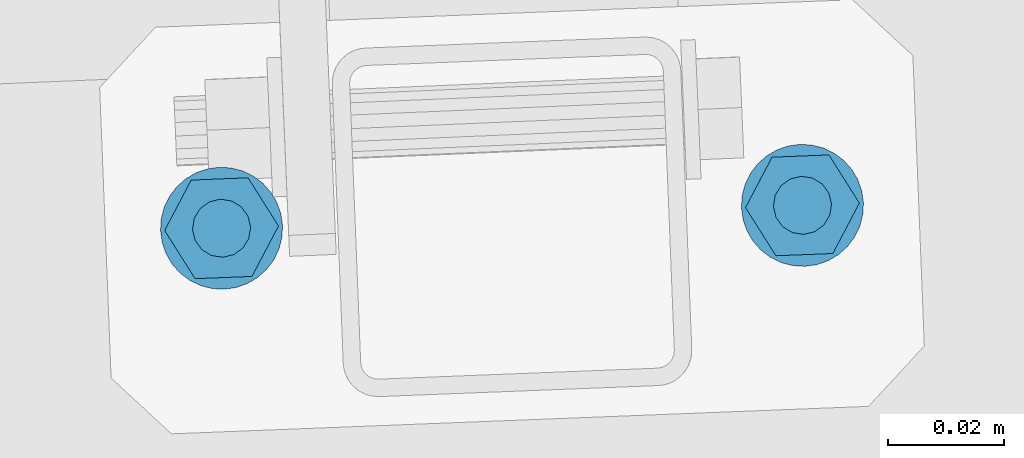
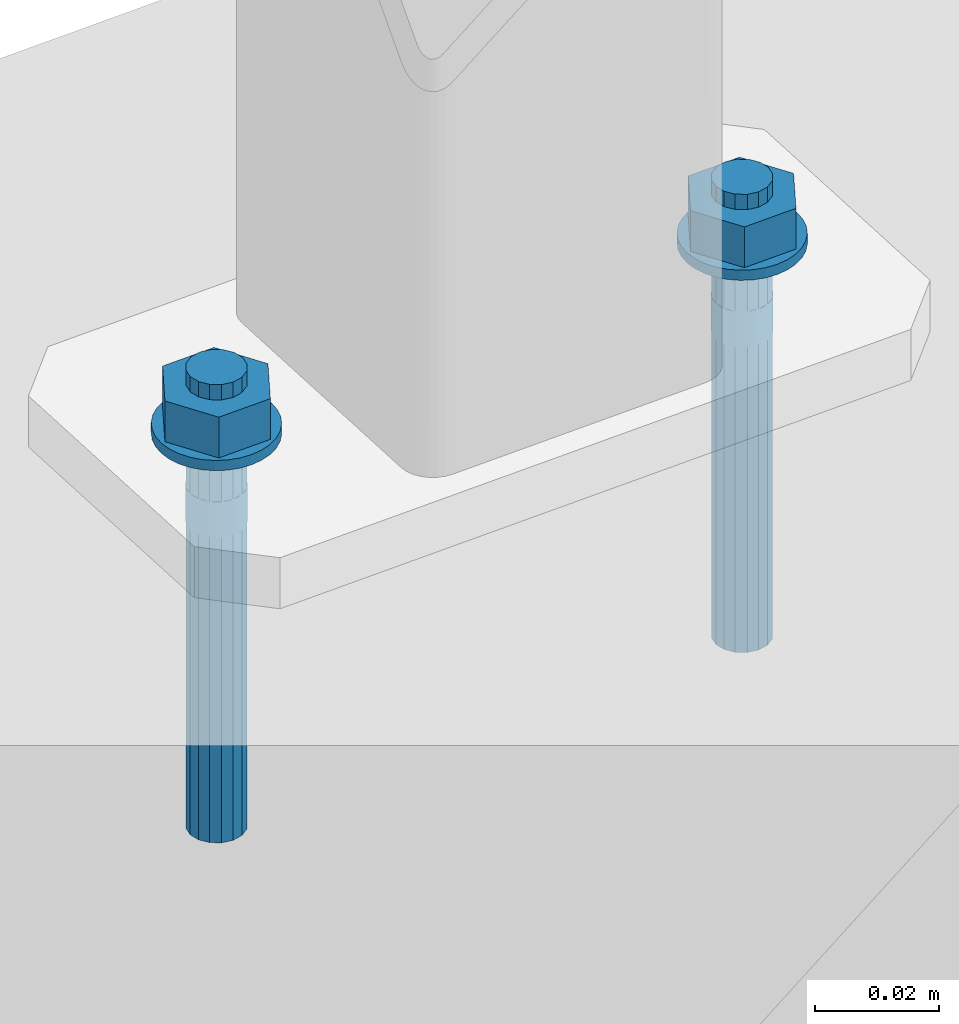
# One storey, part 267 of 288: 2 mechanical fasteners.
"""IFC2X3 building model written with IfcOpenShell, lengths in millimetres."""

from ifc_helpers import new_model, entity, si_unit, converted_unit, origin_with_axes, place, context, project, spatial, faceted_brep, element, save


model = new_model("IFC2X3")

# Units and contexts
model_context = context("Model", 3, precision=1e-09, world=origin_with_axes())
ifc_project = project(units=[si_unit("LENGTHUNIT", "METRE", prefix="MILLI"), si_unit("AREAUNIT", "SQUARE_METRE"), si_unit("VOLUMEUNIT", "CUBIC_METRE"), converted_unit("PLANEANGLEUNIT", "DEGREE", entity("IfcPlaneAngleMeasure", 0.01745329), si_unit("PLANEANGLEUNIT", "RADIAN"), dimensions=[0, 0, 0, 0, 0, 0, 0])], contexts=[model_context])

# Site, building, storey
site_placement = place(None, origin_with_axes())
site = spatial("IfcSite", under=ifc_project, at=site_placement, Name="Remont ?wietlik?w nad MC w NCPP w Opolu", CompositionType="ELEMENT")
building_placement = place(site_placement, origin_with_axes())
building = spatial("IfcBuilding", under=site, at=building_placement, Name="Konstrukcja 1", CompositionType="ELEMENT")
storey_placement = place(building_placement, origin_with_axes())
storey = spatial("IfcBuildingStorey", under=building, at=storey_placement, Name="Default Storey", CompositionType="ELEMENT", Elevation=0.0)

# Mechanical fasteners
mechanical_fastener_1_placement = place(None, origin_with_axes())
element("IfcMechanicalFastener", 1, at=mechanical_fastener_1_placement, inside=storey, ObjectType="Anchor_Bolt", NominalDiameter=10.0, NominalLength=90.0, context=model_context, shape_type="Brep", body=[
    faceted_brep([(8825.52877766, 13902.62062652, 12.000000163), (8825.52877766, 13902.62062652, 10.000000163), (8823.489866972, 13902.338334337, 10.000000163), (8823.489866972, 13902.338334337, 12.000000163), (8821.545205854, 13901.663694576, 10.000000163), (8821.545205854, 13901.663694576, 12.000000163), (8819.769526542, 13900.622633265, 10.000000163), (8819.769526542, 13900.622633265, 12.000000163), (8818.231067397, 13899.255157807, 10.000000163), (8818.231067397, 13899.255157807, 12.000000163), (8816.98895054, 13897.613819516, 10.000000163), (8816.98895054, 13897.613819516, 12.000000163), (8816.090909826, 13895.761694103, 10.000000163), (8816.090909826, 13895.761694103, 12.000000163), (8815.571456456, 13893.769957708, 10.000000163), (8815.571456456, 13893.769957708, 12.000000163), (8815.450552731, 13891.715151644, 10.000000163), (8815.450552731, 13891.715151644, 12.000000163), (8815.732844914, 13889.676240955, 10.000000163), (8815.732844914, 13889.676240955, 12.000000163), (8816.407484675, 13887.731579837, 10.000000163), (8816.407484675, 13887.731579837, 12.000000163), (8817.448545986, 13885.955900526, 10.000000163), (8817.448545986, 13885.955900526, 12.000000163), (8818.816021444, 13884.41744138, 10.000000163), (8818.816021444, 13884.41744138, 12.000000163), (8820.457359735, 13883.175324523, 10.000000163), (8820.457359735, 13883.175324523, 12.000000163), (8822.309485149, 13882.277283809, 10.000000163), (8822.309485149, 13882.277283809, 12.000000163), (8824.301221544, 13881.757830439, 10.000000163), (8824.301221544, 13881.757830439, 12.000000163), (8826.356027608, 13881.636926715, 10.000000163), (8826.356027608, 13881.636926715, 12.000000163), (8828.394938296, 13881.919218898, 10.000000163), (8828.394938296, 13881.919218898, 12.000000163), (8830.339599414, 13882.593858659, 10.000000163), (8830.339599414, 13882.593858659, 12.000000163), (8832.115278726, 13883.634919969, 10.000000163), (8832.115278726, 13883.634919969, 12.000000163), (8833.653737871, 13885.002395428, 10.000000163), (8833.653737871, 13885.002395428, 12.000000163), (8834.895854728, 13886.643733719, 10.000000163), (8834.895854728, 13886.643733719, 12.000000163), (8835.793895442, 13888.495859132, 10.000000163), (8835.793895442, 13888.495859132, 12.000000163), (8836.313348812, 13890.487595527, 10.000000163), (8836.313348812, 13890.487595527, 12.000000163), (8836.434252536, 13892.542401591, 10.000000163), (8836.434252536, 13892.542401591, 12.000000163), (8836.151960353, 13894.581312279, 10.000000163), (8836.151960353, 13894.581312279, 12.000000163), (8835.477320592, 13896.525973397, 10.000000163), (8835.477320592, 13896.525973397, 12.000000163), (8834.436259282, 13898.301652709, 10.000000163), (8834.436259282, 13898.301652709, 12.000000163), (8833.068783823, 13899.840111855, 10.000000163), (8833.068783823, 13899.840111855, 12.000000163), (8831.427445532, 13901.082228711, 10.000000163), (8831.427445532, 13901.082228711, 12.000000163), (8829.575320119, 13901.980269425, 10.000000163), (8829.575320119, 13901.980269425, 12.000000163), (8827.583583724, 13902.499722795, 10.000000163), (8827.583583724, 13902.499722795, 12.000000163)], [[[0, 1, 2, 3]], [[3, 2, 4, 5]], [[5, 4, 6, 7]], [[7, 6, 8, 9]], [[9, 8, 10, 11]], [[11, 10, 12, 13]], [[13, 12, 14, 15]], [[15, 14, 16, 17]], [[17, 16, 18, 19]], [[19, 18, 20, 21]], [[21, 20, 22, 23]], [[23, 22, 24, 25]], [[25, 24, 26, 27]], [[27, 26, 28, 29]], [[29, 28, 30, 31]], [[31, 30, 32, 33]], [[33, 32, 34, 35]], [[35, 34, 36, 37]], [[37, 36, 38, 39]], [[39, 38, 40, 41]], [[41, 40, 42, 43]], [[43, 42, 44, 45]], [[45, 44, 46, 47]], [[47, 46, 48, 49]], [[49, 48, 50, 51]], [[51, 50, 52, 53]], [[53, 52, 54, 55]], [[55, 54, 56, 57]], [[57, 56, 58, 59]], [[59, 58, 60, 61]], [[61, 60, 62, 63]], [[63, 62, 1, 0]], [[0, 3, 5, 7, 9, 11, 13, 15, 17, 19, 21, 23, 25, 27, 29, 31, 33, 35, 37, 39, 41, 43, 45, 47, 49, 51, 53, 55, 57, 59, 61, 63]], [[1, 62, 60, 58, 56, 54, 52, 50, 48, 46, 44, 42, 40, 38, 36, 34, 32, 30, 28, 26, 24, 22, 20, 18, 16, 14, 12, 10, 8, 6, 4, 2]]]),
    faceted_brep([(8821.380535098, 13883.455290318, 12.000000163), (8821.380535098, 13883.455290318, 20.000000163), (8816.150009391, 13891.742726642, 20.000000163), (8816.150009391, 13891.742726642, 12.000000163), (8820.711876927, 13900.416212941, 20.000000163), (8820.711876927, 13900.416212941, 12.000000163), (8830.504270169, 13900.802262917, 20.000000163), (8830.504270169, 13900.802262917, 12.000000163), (8835.734795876, 13892.514826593, 20.000000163), (8835.734795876, 13892.514826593, 12.000000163), (8831.172928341, 13883.841340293, 20.000000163), (8831.172928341, 13883.841340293, 12.000000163)], [[[0, 1, 2, 3]], [[3, 2, 4, 5]], [[5, 4, 6, 7]], [[7, 6, 8, 9]], [[9, 8, 10, 11]], [[11, 10, 1, 0]], [[4, 2, 1, 10, 8, 6]], [[0, 3, 5, 7, 9, 11]]]),
    faceted_brep([(8825.745438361, 13897.124895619, 23.000000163), (8825.745438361, 13897.124895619, 20.000000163), (8823.848499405, 13896.66921374, 20.000000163), (8823.848499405, 13896.66921374, 23.000000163), (8822.270338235, 13895.52229147, 20.000000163), (8822.270338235, 13895.52229147, 23.000000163), (8821.251215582, 13893.858737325, 20.000000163), (8821.251215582, 13893.858737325, 23.000000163), (8820.946283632, 13891.931812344, 20.000000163), (8820.946283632, 13891.931812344, 23.000000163), (8821.401965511, 13890.034873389, 20.000000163), (8821.401965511, 13890.034873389, 23.000000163), (8822.548887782, 13888.456712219, 20.000000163), (8822.548887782, 13888.456712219, 23.000000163), (8824.212441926, 13887.437589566, 20.000000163), (8824.212441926, 13887.437589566, 23.000000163), (8826.139366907, 13887.132657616, 20.000000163), (8826.139366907, 13887.132657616, 23.000000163), (8828.036305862, 13887.588339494, 20.000000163), (8828.036305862, 13887.588339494, 23.000000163), (8829.614467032, 13888.735261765, 20.000000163), (8829.614467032, 13888.735261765, 23.000000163), (8830.633589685, 13890.39881591, 20.000000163), (8830.633589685, 13890.39881591, 23.000000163), (8830.938521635, 13892.325740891, 20.000000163), (8830.938521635, 13892.325740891, 23.000000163), (8830.482839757, 13894.222679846, 20.000000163), (8830.482839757, 13894.222679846, 23.000000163), (8829.335917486, 13895.800841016, 20.000000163), (8829.335917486, 13895.800841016, 23.000000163), (8827.672363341, 13896.819963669, 20.000000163), (8827.672363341, 13896.819963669, 23.000000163)], [[[0, 1, 2, 3]], [[3, 2, 4, 5]], [[5, 4, 6, 7]], [[7, 6, 8, 9]], [[9, 8, 10, 11]], [[11, 10, 12, 13]], [[13, 12, 14, 15]], [[15, 14, 16, 17]], [[17, 16, 18, 19]], [[19, 18, 20, 21]], [[21, 20, 22, 23]], [[23, 22, 24, 25]], [[25, 24, 26, 27]], [[27, 26, 28, 29]], [[29, 28, 30, 31]], [[31, 30, 1, 0]], [[0, 3, 5, 7, 9, 11, 13, 15, 17, 19, 21, 23, 25, 27, 29, 31]], [[1, 30, 28, 26, 24, 22, 20, 18, 16, 14, 12, 10, 8, 6, 4, 2]]]),
    faceted_brep([(8825.745438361, 13897.124895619, 10.000000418), (8825.745438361, 13897.124895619, 1.63e-07), (8823.848499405, 13896.66921374, 1.63e-07), (8823.848499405, 13896.66921374, 10.000000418), (8822.270338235, 13895.52229147, 1.63e-07), (8822.270338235, 13895.52229147, 10.000000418), (8821.251215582, 13893.858737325, 1.63e-07), (8821.251215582, 13893.858737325, 10.000000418), (8820.946283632, 13891.931812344, 1.63e-07), (8820.946283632, 13891.931812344, 10.000000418), (8821.401965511, 13890.034873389, 1.63e-07), (8821.401965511, 13890.034873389, 10.000000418), (8822.548887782, 13888.456712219, 1.63e-07), (8822.548887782, 13888.456712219, 10.000000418), (8824.212441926, 13887.437589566, 1.63e-07), (8824.212441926, 13887.437589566, 10.000000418), (8826.139366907, 13887.132657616, 1.63e-07), (8826.139366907, 13887.132657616, 10.000000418), (8828.036305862, 13887.588339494, 1.63e-07), (8828.036305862, 13887.588339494, 10.000000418), (8829.614467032, 13888.735261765, 1.63e-07), (8829.614467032, 13888.735261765, 10.000000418), (8830.633589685, 13890.39881591, 1.63e-07), (8830.633589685, 13890.39881591, 10.000000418), (8830.938521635, 13892.325740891, 1.63e-07), (8830.938521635, 13892.325740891, 10.000000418), (8830.482839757, 13894.222679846, 1.63e-07), (8830.482839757, 13894.222679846, 10.000000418), (8829.335917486, 13895.800841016, 1.63e-07), (8829.335917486, 13895.800841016, 10.000000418), (8827.672363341, 13896.819963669, 1.63e-07), (8827.672363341, 13896.819963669, 10.000000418)], [[[0, 1, 2, 3]], [[3, 2, 4, 5]], [[5, 4, 6, 7]], [[7, 6, 8, 9]], [[9, 8, 10, 11]], [[11, 10, 12, 13]], [[13, 12, 14, 15]], [[15, 14, 16, 17]], [[17, 16, 18, 19]], [[19, 18, 20, 21]], [[21, 20, 22, 23]], [[23, 22, 24, 25]], [[25, 24, 26, 27]], [[27, 26, 28, 29]], [[29, 28, 30, 31]], [[31, 30, 1, 0]], [[0, 3, 5, 7, 9, 11, 13, 15, 17, 19, 21, 23, 25, 27, 29, 31]], [[1, 30, 28, 26, 24, 22, 20, 18, 16, 14, 12, 10, 8, 6, 4, 2]]]),
    faceted_brep([(8825.745438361, 13897.124895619, -9.3e-08), (8825.745438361, 13897.124895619, -6.999999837), (8824.774528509, 13896.990470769, -6.999999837), (8824.774528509, 13896.990470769, -9.3e-08), (8823.848499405, 13896.66921374, -6.999999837), (8823.848499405, 13896.66921374, -9.3e-08), (8823.002937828, 13896.173470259, -6.999999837), (8823.002937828, 13896.173470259, -9.3e-08), (8822.270338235, 13895.52229147, -6.999999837), (8822.270338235, 13895.52229147, -9.3e-08), (8821.678854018, 13894.740701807, -6.999999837), (8821.678854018, 13894.740701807, -9.3e-08), (8821.251215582, 13893.858737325, -6.999999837), (8821.251215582, 13893.858737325, -9.3e-08), (8821.003856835, 13892.910291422, -6.999999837), (8821.003856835, 13892.910291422, -9.3e-08), (8820.946283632, 13891.931812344, -6.999999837), (8820.946283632, 13891.931812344, -9.3e-08), (8821.080708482, 13890.960902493, -6.999999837), (8821.080708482, 13890.960902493, -9.3e-08), (8821.401965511, 13890.034873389, -6.999999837), (8821.401965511, 13890.034873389, -9.3e-08), (8821.897708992, 13889.189311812, -6.999999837), (8821.897708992, 13889.189311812, -9.3e-08), (8822.548887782, 13888.456712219, -6.999999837), (8822.548887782, 13888.456712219, -9.3e-08), (8823.330477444, 13887.865228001, -6.999999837), (8823.330477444, 13887.865228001, -9.3e-08), (8824.212441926, 13887.437589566, -6.999999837), (8824.212441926, 13887.437589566, -9.3e-08), (8825.160887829, 13887.190230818, -6.999999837), (8825.160887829, 13887.190230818, -9.3e-08), (8826.139366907, 13887.132657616, -6.999999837), (8826.139366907, 13887.132657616, -9.3e-08), (8827.110276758, 13887.267082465, -6.999999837), (8827.110276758, 13887.267082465, -9.3e-08), (8828.036305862, 13887.588339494, -6.999999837), (8828.036305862, 13887.588339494, -9.3e-08), (8828.881867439, 13888.084082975, -6.999999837), (8828.881867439, 13888.084082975, -9.3e-08), (8829.614467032, 13888.735261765, -6.999999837), (8829.614467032, 13888.735261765, -9.3e-08), (8830.20595125, 13889.516851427, -6.999999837), (8830.20595125, 13889.516851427, -9.3e-08), (8830.633589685, 13890.39881591, -6.999999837), (8830.633589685, 13890.39881591, -9.3e-08), (8830.880948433, 13891.347261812, -6.999999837), (8830.880948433, 13891.347261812, -9.3e-08), (8830.938521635, 13892.325740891, -6.999999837), (8830.938521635, 13892.325740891, -9.3e-08), (8830.804096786, 13893.296650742, -6.999999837), (8830.804096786, 13893.296650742, -9.3e-08), (8830.482839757, 13894.222679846, -6.999999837), (8830.482839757, 13894.222679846, -9.3e-08), (8829.987096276, 13895.068241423, -6.999999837), (8829.987096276, 13895.068241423, -9.3e-08), (8829.335917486, 13895.800841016, -6.999999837), (8829.335917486, 13895.800841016, -9.3e-08), (8828.554327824, 13896.392325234, -6.999999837), (8828.554327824, 13896.392325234, -9.3e-08), (8827.672363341, 13896.819963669, -6.999999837), (8827.672363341, 13896.819963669, -9.3e-08), (8826.723917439, 13897.067322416, -6.999999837), (8826.723917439, 13897.067322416, -9.3e-08)], [[[0, 1, 2, 3]], [[3, 2, 4, 5]], [[5, 4, 6, 7]], [[7, 6, 8, 9]], [[9, 8, 10, 11]], [[11, 10, 12, 13]], [[13, 12, 14, 15]], [[15, 14, 16, 17]], [[17, 16, 18, 19]], [[19, 18, 20, 21]], [[21, 20, 22, 23]], [[23, 22, 24, 25]], [[25, 24, 26, 27]], [[27, 26, 28, 29]], [[29, 28, 30, 31]], [[31, 30, 32, 33]], [[33, 32, 34, 35]], [[35, 34, 36, 37]], [[37, 36, 38, 39]], [[39, 38, 40, 41]], [[41, 40, 42, 43]], [[43, 42, 44, 45]], [[45, 44, 46, 47]], [[47, 46, 48, 49]], [[49, 48, 50, 51]], [[51, 50, 52, 53]], [[53, 52, 54, 55]], [[55, 54, 56, 57]], [[57, 56, 58, 59]], [[59, 58, 60, 61]], [[61, 60, 62, 63]], [[63, 62, 1, 0]], [[0, 3, 5, 7, 9, 11, 13, 15, 17, 19, 21, 23, 25, 27, 29, 31, 33, 35, 37, 39, 41, 43, 45, 47, 49, 51, 53, 55, 57, 59, 61, 63]], [[1, 62, 60, 58, 56, 54, 52, 50, 48, 46, 44, 42, 40, 38, 36, 34, 32, 30, 28, 26, 24, 22, 20, 18, 16, 14, 12, 10, 8, 6, 4, 2]]]),
    faceted_brep([(8825.745438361, 13897.124895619, -6.999999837), (8825.745438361, 13897.124895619, -66.999999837), (8823.848499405, 13896.66921374, -66.999999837), (8823.848499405, 13896.66921374, -6.999999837), (8822.270338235, 13895.52229147, -66.999999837), (8822.270338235, 13895.52229147, -6.999999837), (8821.251215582, 13893.858737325, -66.999999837), (8821.251215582, 13893.858737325, -6.999999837), (8820.946283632, 13891.931812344, -66.999999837), (8820.946283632, 13891.931812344, -6.999999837), (8821.401965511, 13890.034873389, -66.999999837), (8821.401965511, 13890.034873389, -6.999999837), (8822.548887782, 13888.456712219, -66.999999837), (8822.548887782, 13888.456712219, -6.999999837), (8824.212441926, 13887.437589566, -66.999999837), (8824.212441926, 13887.437589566, -6.999999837), (8826.139366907, 13887.132657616, -66.999999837), (8826.139366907, 13887.132657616, -6.999999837), (8828.036305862, 13887.588339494, -66.999999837), (8828.036305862, 13887.588339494, -6.999999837), (8829.614467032, 13888.735261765, -66.999999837), (8829.614467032, 13888.735261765, -6.999999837), (8830.633589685, 13890.39881591, -66.999999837), (8830.633589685, 13890.39881591, -6.999999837), (8830.938521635, 13892.325740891, -66.999999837), (8830.938521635, 13892.325740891, -6.999999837), (8830.482839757, 13894.222679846, -66.999999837), (8830.482839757, 13894.222679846, -6.999999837), (8829.335917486, 13895.800841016, -66.999999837), (8829.335917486, 13895.800841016, -6.999999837), (8827.672363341, 13896.819963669, -66.999999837), (8827.672363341, 13896.819963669, -6.999999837)], [[[0, 1, 2, 3]], [[3, 2, 4, 5]], [[5, 4, 6, 7]], [[7, 6, 8, 9]], [[9, 8, 10, 11]], [[11, 10, 12, 13]], [[13, 12, 14, 15]], [[15, 14, 16, 17]], [[17, 16, 18, 19]], [[19, 18, 20, 21]], [[21, 20, 22, 23]], [[23, 22, 24, 25]], [[25, 24, 26, 27]], [[27, 26, 28, 29]], [[29, 28, 30, 31]], [[31, 30, 1, 0]], [[0, 3, 5, 7, 9, 11, 13, 15, 17, 19, 21, 23, 25, 27, 29, 31]], [[1, 30, 28, 26, 24, 22, 20, 18, 16, 14, 12, 10, 8, 6, 4, 2]]]),
])
mechanical_fastener_2_placement = place(None, origin_with_axes())
element("IfcMechanicalFastener", 2, at=mechanical_fastener_2_placement, inside=storey, ObjectType="Anchor_Bolt", NominalDiameter=10.0, NominalLength=90.0, context=model_context, shape_type="Brep", body=[
    faceted_brep([(8725.606397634, 13898.681341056, 12.000000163), (8725.606397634, 13898.681341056, 10.000000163), (8723.567486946, 13898.399048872, 10.000000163), (8723.567486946, 13898.399048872, 12.000000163), (8721.622825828, 13897.724409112, 10.000000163), (8721.622825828, 13897.724409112, 12.000000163), (8719.847146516, 13896.683347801, 10.000000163), (8719.847146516, 13896.683347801, 12.000000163), (8718.308687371, 13895.315872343, 10.000000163), (8718.308687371, 13895.315872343, 12.000000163), (8717.066570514, 13893.674534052, 10.000000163), (8717.066570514, 13893.674534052, 12.000000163), (8716.1685298, 13891.822408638, 10.000000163), (8716.1685298, 13891.822408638, 12.000000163), (8715.64907643, 13889.830672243, 10.000000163), (8715.64907643, 13889.830672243, 12.000000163), (8715.528172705, 13887.775866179, 10.000000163), (8715.528172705, 13887.775866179, 12.000000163), (8715.810464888, 13885.736955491, 10.000000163), (8715.810464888, 13885.736955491, 12.000000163), (8716.485104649, 13883.792294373, 10.000000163), (8716.485104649, 13883.792294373, 12.000000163), (8717.52616596, 13882.016615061, 10.000000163), (8717.52616596, 13882.016615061, 12.000000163), (8718.893641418, 13880.478155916, 10.000000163), (8718.893641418, 13880.478155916, 12.000000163), (8720.534979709, 13879.236039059, 10.000000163), (8720.534979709, 13879.236039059, 12.000000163), (8722.387105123, 13878.337998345, 10.000000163), (8722.387105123, 13878.337998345, 12.000000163), (8724.378841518, 13877.818544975, 10.000000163), (8724.378841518, 13877.818544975, 12.000000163), (8726.433647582, 13877.69764125, 10.000000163), (8726.433647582, 13877.69764125, 12.000000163), (8728.47255827, 13877.979933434, 10.000000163), (8728.47255827, 13877.979933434, 12.000000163), (8730.417219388, 13878.654573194, 10.000000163), (8730.417219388, 13878.654573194, 12.000000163), (8732.1928987, 13879.695634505, 10.000000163), (8732.1928987, 13879.695634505, 12.000000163), (8733.731357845, 13881.063109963, 10.000000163), (8733.731357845, 13881.063109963, 12.000000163), (8734.973474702, 13882.704448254, 10.000000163), (8734.973474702, 13882.704448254, 12.000000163), (8735.871515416, 13884.556573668, 10.000000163), (8735.871515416, 13884.556573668, 12.000000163), (8736.390968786, 13886.548310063, 10.000000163), (8736.390968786, 13886.548310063, 12.000000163), (8736.511872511, 13888.603116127, 10.000000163), (8736.511872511, 13888.603116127, 12.000000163), (8736.229580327, 13890.642026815, 10.000000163), (8736.229580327, 13890.642026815, 12.000000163), (8735.554940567, 13892.586687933, 10.000000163), (8735.554940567, 13892.586687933, 12.000000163), (8734.513879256, 13894.362367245, 10.000000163), (8734.513879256, 13894.362367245, 12.000000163), (8733.146403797, 13895.90082639, 10.000000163), (8733.146403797, 13895.90082639, 12.000000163), (8731.505065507, 13897.142943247, 10.000000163), (8731.505065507, 13897.142943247, 12.000000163), (8729.652940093, 13898.040983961, 10.000000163), (8729.652940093, 13898.040983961, 12.000000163), (8727.661203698, 13898.560437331, 10.000000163), (8727.661203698, 13898.560437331, 12.000000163)], [[[0, 1, 2, 3]], [[3, 2, 4, 5]], [[5, 4, 6, 7]], [[7, 6, 8, 9]], [[9, 8, 10, 11]], [[11, 10, 12, 13]], [[13, 12, 14, 15]], [[15, 14, 16, 17]], [[17, 16, 18, 19]], [[19, 18, 20, 21]], [[21, 20, 22, 23]], [[23, 22, 24, 25]], [[25, 24, 26, 27]], [[27, 26, 28, 29]], [[29, 28, 30, 31]], [[31, 30, 32, 33]], [[33, 32, 34, 35]], [[35, 34, 36, 37]], [[37, 36, 38, 39]], [[39, 38, 40, 41]], [[41, 40, 42, 43]], [[43, 42, 44, 45]], [[45, 44, 46, 47]], [[47, 46, 48, 49]], [[49, 48, 50, 51]], [[51, 50, 52, 53]], [[53, 52, 54, 55]], [[55, 54, 56, 57]], [[57, 56, 58, 59]], [[59, 58, 60, 61]], [[61, 60, 62, 63]], [[63, 62, 1, 0]], [[0, 3, 5, 7, 9, 11, 13, 15, 17, 19, 21, 23, 25, 27, 29, 31, 33, 35, 37, 39, 41, 43, 45, 47, 49, 51, 53, 55, 57, 59, 61, 63]], [[1, 62, 60, 58, 56, 54, 52, 50, 48, 46, 44, 42, 40, 38, 36, 34, 32, 30, 28, 26, 24, 22, 20, 18, 16, 14, 12, 10, 8, 6, 4, 2]]]),
    faceted_brep([(8721.458155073, 13879.516004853, 12.000000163), (8721.458155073, 13879.516004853, 20.000000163), (8716.227629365, 13887.803441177, 20.000000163), (8716.227629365, 13887.803441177, 12.000000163), (8720.789496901, 13896.476927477, 20.000000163), (8720.789496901, 13896.476927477, 12.000000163), (8730.581890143, 13896.862977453, 20.000000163), (8730.581890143, 13896.862977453, 12.000000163), (8735.81241585, 13888.575541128, 20.000000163), (8735.81241585, 13888.575541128, 12.000000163), (8731.250548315, 13879.902054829, 20.000000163), (8731.250548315, 13879.902054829, 12.000000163)], [[[0, 1, 2, 3]], [[3, 2, 4, 5]], [[5, 4, 6, 7]], [[7, 6, 8, 9]], [[9, 8, 10, 11]], [[11, 10, 1, 0]], [[4, 2, 1, 10, 8, 6]], [[0, 3, 5, 7, 9, 11]]]),
    faceted_brep([(8725.823058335, 13893.185610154, 23.000000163), (8725.823058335, 13893.185610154, 20.000000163), (8723.926119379, 13892.729928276, 20.000000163), (8723.926119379, 13892.729928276, 23.000000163), (8722.347958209, 13891.583006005, 20.000000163), (8722.347958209, 13891.583006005, 23.000000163), (8721.328835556, 13889.91945186, 20.000000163), (8721.328835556, 13889.91945186, 23.000000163), (8721.023903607, 13887.99252688, 20.000000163), (8721.023903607, 13887.99252688, 23.000000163), (8721.479585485, 13886.095587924, 20.000000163), (8721.479585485, 13886.095587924, 23.000000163), (8722.626507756, 13884.517426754, 20.000000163), (8722.626507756, 13884.517426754, 23.000000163), (8724.290061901, 13883.498304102, 20.000000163), (8724.290061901, 13883.498304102, 23.000000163), (8726.216986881, 13883.193372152, 20.000000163), (8726.216986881, 13883.193372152, 23.000000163), (8728.113925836, 13883.64905403, 20.000000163), (8728.113925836, 13883.64905403, 23.000000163), (8729.692087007, 13884.795976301, 20.000000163), (8729.692087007, 13884.795976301, 23.000000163), (8730.711209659, 13886.459530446, 20.000000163), (8730.711209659, 13886.459530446, 23.000000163), (8731.016141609, 13888.386455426, 20.000000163), (8731.016141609, 13888.386455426, 23.000000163), (8730.560459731, 13890.283394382, 20.000000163), (8730.560459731, 13890.283394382, 23.000000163), (8729.41353746, 13891.861555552, 20.000000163), (8729.41353746, 13891.861555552, 23.000000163), (8727.749983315, 13892.880678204, 20.000000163), (8727.749983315, 13892.880678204, 23.000000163)], [[[0, 1, 2, 3]], [[3, 2, 4, 5]], [[5, 4, 6, 7]], [[7, 6, 8, 9]], [[9, 8, 10, 11]], [[11, 10, 12, 13]], [[13, 12, 14, 15]], [[15, 14, 16, 17]], [[17, 16, 18, 19]], [[19, 18, 20, 21]], [[21, 20, 22, 23]], [[23, 22, 24, 25]], [[25, 24, 26, 27]], [[27, 26, 28, 29]], [[29, 28, 30, 31]], [[31, 30, 1, 0]], [[0, 3, 5, 7, 9, 11, 13, 15, 17, 19, 21, 23, 25, 27, 29, 31]], [[1, 30, 28, 26, 24, 22, 20, 18, 16, 14, 12, 10, 8, 6, 4, 2]]]),
    faceted_brep([(8725.823058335, 13893.185610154, 10.000000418), (8725.823058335, 13893.185610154, 1.63e-07), (8723.926119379, 13892.729928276, 1.63e-07), (8723.926119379, 13892.729928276, 10.000000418), (8722.347958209, 13891.583006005, 1.63e-07), (8722.347958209, 13891.583006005, 10.000000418), (8721.328835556, 13889.91945186, 1.63e-07), (8721.328835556, 13889.91945186, 10.000000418), (8721.023903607, 13887.99252688, 1.63e-07), (8721.023903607, 13887.99252688, 10.000000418), (8721.479585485, 13886.095587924, 1.63e-07), (8721.479585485, 13886.095587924, 10.000000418), (8722.626507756, 13884.517426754, 1.63e-07), (8722.626507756, 13884.517426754, 10.000000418), (8724.290061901, 13883.498304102, 1.63e-07), (8724.290061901, 13883.498304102, 10.000000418), (8726.216986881, 13883.193372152, 1.63e-07), (8726.216986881, 13883.193372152, 10.000000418), (8728.113925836, 13883.64905403, 1.63e-07), (8728.113925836, 13883.64905403, 10.000000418), (8729.692087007, 13884.795976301, 1.63e-07), (8729.692087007, 13884.795976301, 10.000000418), (8730.711209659, 13886.459530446, 1.63e-07), (8730.711209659, 13886.459530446, 10.000000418), (8731.016141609, 13888.386455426, 1.63e-07), (8731.016141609, 13888.386455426, 10.000000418), (8730.560459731, 13890.283394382, 1.63e-07), (8730.560459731, 13890.283394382, 10.000000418), (8729.41353746, 13891.861555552, 1.63e-07), (8729.41353746, 13891.861555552, 10.000000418), (8727.749983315, 13892.880678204, 1.63e-07), (8727.749983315, 13892.880678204, 10.000000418)], [[[0, 1, 2, 3]], [[3, 2, 4, 5]], [[5, 4, 6, 7]], [[7, 6, 8, 9]], [[9, 8, 10, 11]], [[11, 10, 12, 13]], [[13, 12, 14, 15]], [[15, 14, 16, 17]], [[17, 16, 18, 19]], [[19, 18, 20, 21]], [[21, 20, 22, 23]], [[23, 22, 24, 25]], [[25, 24, 26, 27]], [[27, 26, 28, 29]], [[29, 28, 30, 31]], [[31, 30, 1, 0]], [[0, 3, 5, 7, 9, 11, 13, 15, 17, 19, 21, 23, 25, 27, 29, 31]], [[1, 30, 28, 26, 24, 22, 20, 18, 16, 14, 12, 10, 8, 6, 4, 2]]]),
    faceted_brep([(8725.823058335, 13893.185610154, -9.3e-08), (8725.823058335, 13893.185610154, -6.999999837), (8724.852148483, 13893.051185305, -6.999999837), (8724.852148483, 13893.051185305, -9.3e-08), (8723.926119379, 13892.729928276, -6.999999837), (8723.926119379, 13892.729928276, -9.3e-08), (8723.080557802, 13892.234184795, -6.999999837), (8723.080557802, 13892.234184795, -9.3e-08), (8722.347958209, 13891.583006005, -6.999999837), (8722.347958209, 13891.583006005, -9.3e-08), (8721.756473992, 13890.801416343, -6.999999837), (8721.756473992, 13890.801416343, -9.3e-08), (8721.328835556, 13889.91945186, -6.999999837), (8721.328835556, 13889.91945186, -9.3e-08), (8721.081476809, 13888.971005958, -6.999999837), (8721.081476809, 13888.971005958, -9.3e-08), (8721.023903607, 13887.99252688, -6.999999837), (8721.023903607, 13887.99252688, -9.3e-08), (8721.158328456, 13887.021617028, -6.999999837), (8721.158328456, 13887.021617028, -9.3e-08), (8721.479585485, 13886.095587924, -6.999999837), (8721.479585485, 13886.095587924, -9.3e-08), (8721.975328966, 13885.250026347, -6.999999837), (8721.975328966, 13885.250026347, -9.3e-08), (8722.626507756, 13884.517426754, -6.999999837), (8722.626507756, 13884.517426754, -9.3e-08), (8723.408097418, 13883.925942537, -6.999999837), (8723.408097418, 13883.925942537, -9.3e-08), (8724.290061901, 13883.498304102, -6.999999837), (8724.290061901, 13883.498304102, -9.3e-08), (8725.238507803, 13883.250945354, -6.999999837), (8725.238507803, 13883.250945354, -9.3e-08), (8726.216986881, 13883.193372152, -6.999999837), (8726.216986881, 13883.193372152, -9.3e-08), (8727.187896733, 13883.327797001, -6.999999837), (8727.187896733, 13883.327797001, -9.3e-08), (8728.113925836, 13883.64905403, -6.999999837), (8728.113925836, 13883.64905403, -9.3e-08), (8728.959487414, 13884.144797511, -6.999999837), (8728.959487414, 13884.144797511, -9.3e-08), (8729.692087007, 13884.795976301, -6.999999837), (8729.692087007, 13884.795976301, -9.3e-08), (8730.283571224, 13885.577565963, -6.999999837), (8730.283571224, 13885.577565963, -9.3e-08), (8730.711209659, 13886.459530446, -6.999999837), (8730.711209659, 13886.459530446, -9.3e-08), (8730.958568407, 13887.407976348, -6.999999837), (8730.958568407, 13887.407976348, -9.3e-08), (8731.016141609, 13888.386455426, -6.999999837), (8731.016141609, 13888.386455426, -9.3e-08), (8730.88171676, 13889.357365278, -6.999999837), (8730.88171676, 13889.357365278, -9.3e-08), (8730.560459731, 13890.283394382, -6.999999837), (8730.560459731, 13890.283394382, -9.3e-08), (8730.06471625, 13891.128955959, -6.999999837), (8730.06471625, 13891.128955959, -9.3e-08), (8729.41353746, 13891.861555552, -6.999999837), (8729.41353746, 13891.861555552, -9.3e-08), (8728.631947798, 13892.453039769, -6.999999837), (8728.631947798, 13892.453039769, -9.3e-08), (8727.749983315, 13892.880678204, -6.999999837), (8727.749983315, 13892.880678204, -9.3e-08), (8726.801537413, 13893.128036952, -6.999999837), (8726.801537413, 13893.128036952, -9.3e-08)], [[[0, 1, 2, 3]], [[3, 2, 4, 5]], [[5, 4, 6, 7]], [[7, 6, 8, 9]], [[9, 8, 10, 11]], [[11, 10, 12, 13]], [[13, 12, 14, 15]], [[15, 14, 16, 17]], [[17, 16, 18, 19]], [[19, 18, 20, 21]], [[21, 20, 22, 23]], [[23, 22, 24, 25]], [[25, 24, 26, 27]], [[27, 26, 28, 29]], [[29, 28, 30, 31]], [[31, 30, 32, 33]], [[33, 32, 34, 35]], [[35, 34, 36, 37]], [[37, 36, 38, 39]], [[39, 38, 40, 41]], [[41, 40, 42, 43]], [[43, 42, 44, 45]], [[45, 44, 46, 47]], [[47, 46, 48, 49]], [[49, 48, 50, 51]], [[51, 50, 52, 53]], [[53, 52, 54, 55]], [[55, 54, 56, 57]], [[57, 56, 58, 59]], [[59, 58, 60, 61]], [[61, 60, 62, 63]], [[63, 62, 1, 0]], [[0, 3, 5, 7, 9, 11, 13, 15, 17, 19, 21, 23, 25, 27, 29, 31, 33, 35, 37, 39, 41, 43, 45, 47, 49, 51, 53, 55, 57, 59, 61, 63]], [[1, 62, 60, 58, 56, 54, 52, 50, 48, 46, 44, 42, 40, 38, 36, 34, 32, 30, 28, 26, 24, 22, 20, 18, 16, 14, 12, 10, 8, 6, 4, 2]]]),
    faceted_brep([(8725.823058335, 13893.185610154, -6.999999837), (8725.823058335, 13893.185610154, -66.999999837), (8723.926119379, 13892.729928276, -66.999999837), (8723.926119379, 13892.729928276, -6.999999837), (8722.347958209, 13891.583006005, -66.999999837), (8722.347958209, 13891.583006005, -6.999999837), (8721.328835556, 13889.91945186, -66.999999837), (8721.328835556, 13889.91945186, -6.999999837), (8721.023903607, 13887.99252688, -66.999999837), (8721.023903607, 13887.99252688, -6.999999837), (8721.479585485, 13886.095587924, -66.999999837), (8721.479585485, 13886.095587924, -6.999999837), (8722.626507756, 13884.517426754, -66.999999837), (8722.626507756, 13884.517426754, -6.999999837), (8724.290061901, 13883.498304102, -66.999999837), (8724.290061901, 13883.498304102, -6.999999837), (8726.216986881, 13883.193372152, -66.999999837), (8726.216986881, 13883.193372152, -6.999999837), (8728.113925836, 13883.64905403, -66.999999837), (8728.113925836, 13883.64905403, -6.999999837), (8729.692087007, 13884.795976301, -66.999999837), (8729.692087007, 13884.795976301, -6.999999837), (8730.711209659, 13886.459530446, -66.999999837), (8730.711209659, 13886.459530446, -6.999999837), (8731.016141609, 13888.386455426, -66.999999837), (8731.016141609, 13888.386455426, -6.999999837), (8730.560459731, 13890.283394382, -66.999999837), (8730.560459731, 13890.283394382, -6.999999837), (8729.41353746, 13891.861555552, -66.999999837), (8729.41353746, 13891.861555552, -6.999999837), (8727.749983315, 13892.880678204, -66.999999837), (8727.749983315, 13892.880678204, -6.999999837)], [[[0, 1, 2, 3]], [[3, 2, 4, 5]], [[5, 4, 6, 7]], [[7, 6, 8, 9]], [[9, 8, 10, 11]], [[11, 10, 12, 13]], [[13, 12, 14, 15]], [[15, 14, 16, 17]], [[17, 16, 18, 19]], [[19, 18, 20, 21]], [[21, 20, 22, 23]], [[23, 22, 24, 25]], [[25, 24, 26, 27]], [[27, 26, 28, 29]], [[29, 28, 30, 31]], [[31, 30, 1, 0]], [[0, 3, 5, 7, 9, 11, 13, 15, 17, 19, 21, 23, 25, 27, 29, 31]], [[1, 30, 28, 26, 24, 22, 20, 18, 16, 14, 12, 10, 8, 6, 4, 2]]]),
])

save(model, "model.ifc")
